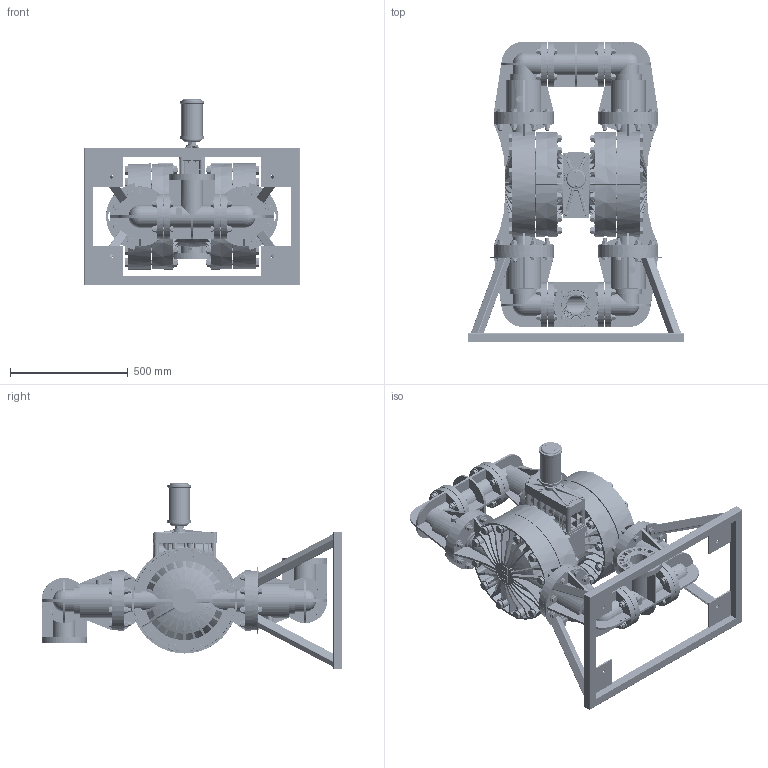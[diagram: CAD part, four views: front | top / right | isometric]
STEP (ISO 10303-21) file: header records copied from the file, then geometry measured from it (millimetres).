
FILE_DESCRIPTION((''),'2;1');
FILE_NAME('P1500_ADVANCED_PLASTIC','2008-07-21T',('roy'),(''),'PRO/ENGINEER BY PARAMETRIC TECHNOLOGY CORPORATION, 2006170','PRO/ENGINEER BY PARAMETRIC TECHNOLOGY CORPORATION, 2006170','');
FILE_SCHEMA(('CONFIG_CONTROL_DESIGN'));
Products named in the file (1): P1500_ADVANCED_PLASTIC
Bounding box: 914.4 x 1276.22 x 791.85 mm (x, y, z)
Volume: 65828678.9 mm3; surface area: 11287733.2 mm2
Topology: 6 solids, 10 shells, 23663 faces, 60849 edges, 38392 vertices
Faces by surface type: plane 13790, cylinder 3229, cone 2340, bspline 1977, torus 1266, sphere 1061
Entity records: 1030913 total; most frequent: CARTESIAN_POINT 476985, ORIENTED_EDGE 121608, DIRECTION 105664, EDGE_CURVE 60804, VERTEX_POINT 38392, VECTOR 35808, LINE 35808, AXIS2_PLACEMENT_3D 34928
